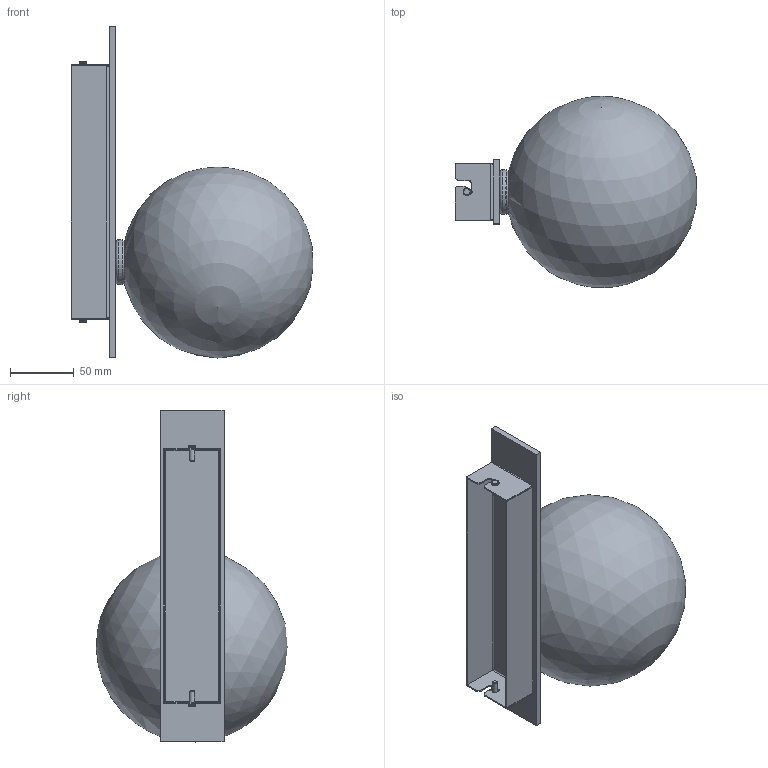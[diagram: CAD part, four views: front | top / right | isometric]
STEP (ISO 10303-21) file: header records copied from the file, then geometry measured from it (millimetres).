
FILE_DESCRIPTION(/* description */ (''),/* implementation_level */ '2;1');
FILE_NAME(/* name */ 'T:\B067 Oslo Wall Scone\Pliki bryłowe handlowe\B067 Oslo 3D files\B067 Oslo.stp',/* time_stamp */ '2022-01-18T15:58:12+01:00',/* author */ ('Mariusz Awariusz'),/* organization */ (''),/* preprocessor_version */ 'ST-DEVELOPER v18.1',/* originating_system */ 'Autodesk Inventor 2022',/* authorisation */ '');
FILE_SCHEMA (('AUTOMOTIVE_DESIGN { 1 0 10303 214 3 1 1 }'));
Length unit declared in the file: millimetre
Products named in the file (1): B067 Oslo_jako część
Bounding box: 189.36 x 149.83 x 260.05 mm (x, y, z)
Volume: 229969.7 mm3; surface area: 197805.8 mm2
Topology: 1 solids, 3 shells, 116 faces, 280 edges, 173 vertices
Faces by surface type: plane 55, cylinder 37, bspline 8, torus 6, cone 6, sphere 4
Full cylindrical faces by diameter (mm): 4 x5, 6 x2, 11.917 x1, 25 x1, 33 x1, 35 x1
Entity records: 3708 total; most frequent: CARTESIAN_POINT 982, DIRECTION 561, ORIENTED_EDGE 552, EDGE_CURVE 276, AXIS2_PLACEMENT_3D 200, VERTEX_POINT 173, LINE 161, VECTOR 161
